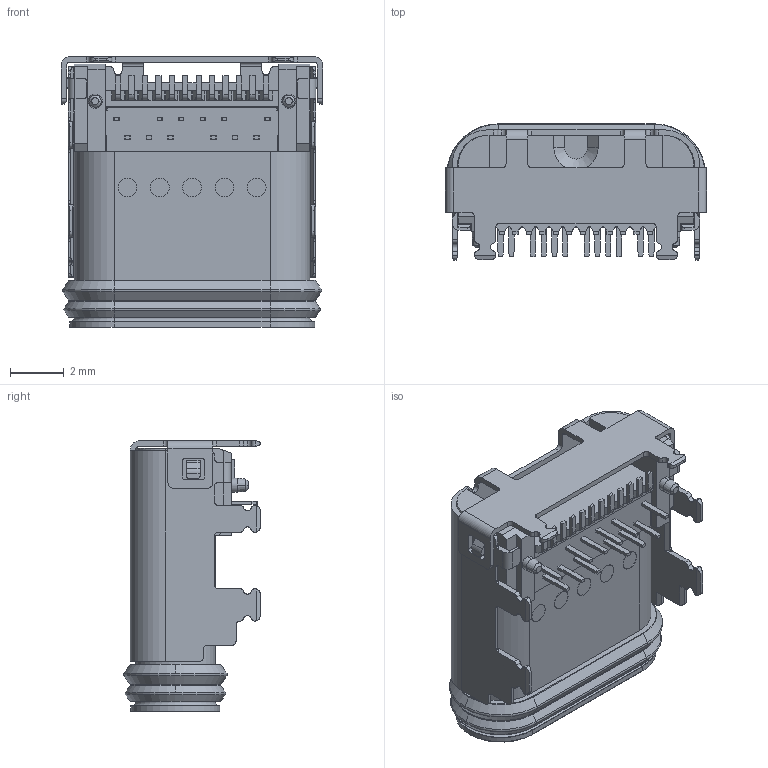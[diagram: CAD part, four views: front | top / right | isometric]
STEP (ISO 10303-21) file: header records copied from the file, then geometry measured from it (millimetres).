
FILE_DESCRIPTION((''),'2;1');
FILE_NAME('PRT0009','2024-10-17T18:48:16',('allen'),(''),'CREO PARAMETRIC BY PTC INC, 2024063','CREO PARAMETRIC BY PTC INC, 2024063','');
FILE_SCHEMA(('AUTOMOTIVE_DESIGN { 1 0 10303 214 1 1 1 1 }'));
Length unit declared in the file: millimetre
Products named in the file (1): PRT0009
Bounding box: 9.7 x 5.07 x 10.05 mm (x, y, z)
Volume: 161.4 mm3; surface area: 1090.1 mm2
Topology: 3 solids, 4 shells, 1320 faces, 3604 edges, 2326 vertices
Faces by surface type: plane 847, cylinder 386, cone 43, torus 40, bspline 4
Entity records: 42577 total; most frequent: CARTESIAN_POINT 8535, ORIENTED_EDGE 7208, DIRECTION 6941, EDGE_CURVE 3604, VECTOR 2607, LINE 2607, VERTEX_POINT 2326, AXIS2_PLACEMENT_3D 2167
